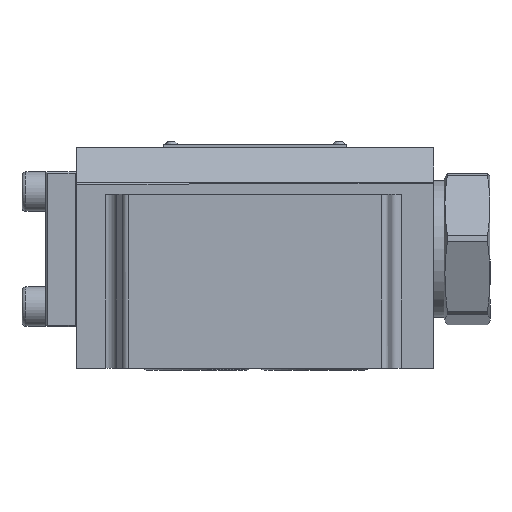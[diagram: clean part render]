
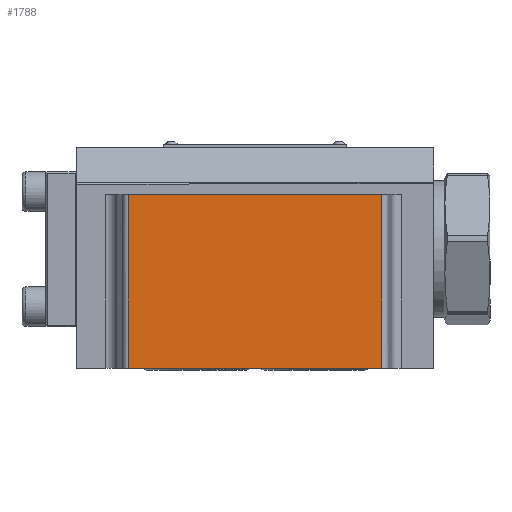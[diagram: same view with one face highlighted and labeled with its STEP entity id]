
A CAD part, front view. The second image highlights one B-rep face of the part: STEP entity #1788.
In plain terms, the highlighted planar face has unit normal (0, -1, 0).
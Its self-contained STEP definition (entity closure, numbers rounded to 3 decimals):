
#1788=ADVANCED_FACE('',(#2537),#2282,.T.);
#2282=PLANE('',#9363);
#2537=FACE_OUTER_BOUND('',#2999,.T.);
#2999=EDGE_LOOP('',(#4447,#4448,#4449,#4450));
#4447=ORIENTED_EDGE('',*,*,#7246,.T.);
#4448=ORIENTED_EDGE('',*,*,#7269,.T.);
#4449=ORIENTED_EDGE('',*,*,#7103,.F.);
#4450=ORIENTED_EDGE('',*,*,#7270,.T.);
#6341=VERTEX_POINT('',#17920);
#6342=VERTEX_POINT('',#17922);
#6473=VERTEX_POINT('',#18453);
#6474=VERTEX_POINT('',#18455);
#7103=EDGE_CURVE('',#6341,#6342,#8153,.T.);
#7246=EDGE_CURVE('',#6474,#6473,#8226,.T.);
#7269=EDGE_CURVE('',#6473,#6342,#8243,.T.);
#7270=EDGE_CURVE('',#6341,#6474,#8244,.T.);
#8153=LINE('',#17921,#8705);
#8226=LINE('',#18454,#8778);
#8243=LINE('',#18496,#8795);
#8244=LINE('',#18497,#8796);
#8705=VECTOR('',#10099,1.);
#8778=VECTOR('',#10276,1.);
#8795=VECTOR('',#10325,1.);
#8796=VECTOR('',#10326,1.);
#9363=AXIS2_PLACEMENT_3D('',#18498,#10327,#10328);
#10099=DIRECTION('',(1.,0.,0.));
#10276=DIRECTION('',(1.,0.,0.));
#10325=DIRECTION('',(0.,0.,1.));
#10326=DIRECTION('',(0.,0.,-1.));
#10327=DIRECTION('',(0.,-1.,0.));
#10328=DIRECTION('',(0.,0.,1.));
#17920=CARTESIAN_POINT('',(296.377,129.334,5.14));
#17921=CARTESIAN_POINT('',(279.731,129.334,5.14));
#17922=CARTESIAN_POINT('',(377.975,129.334,5.14));
#18453=CARTESIAN_POINT('',(377.976,129.35,-50.86));
#18454=CARTESIAN_POINT('',(384.698,129.35,-50.86));
#18455=CARTESIAN_POINT('',(296.375,129.35,-50.86));
#18496=CARTESIAN_POINT('',(377.975,129.334,5.142));
#18497=CARTESIAN_POINT('',(296.377,129.334,5.14));
#18498=CARTESIAN_POINT('',(279.731,129.334,5.14));
